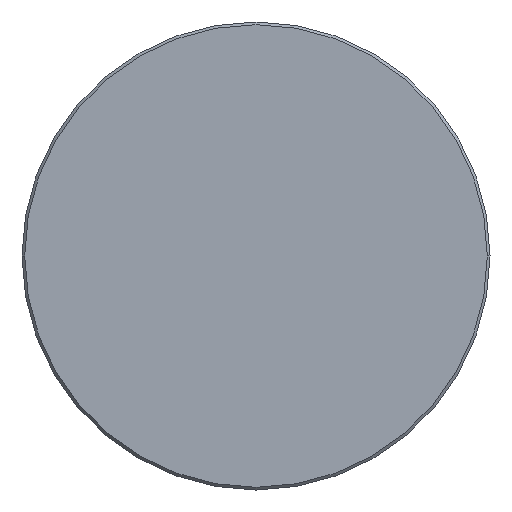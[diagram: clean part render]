
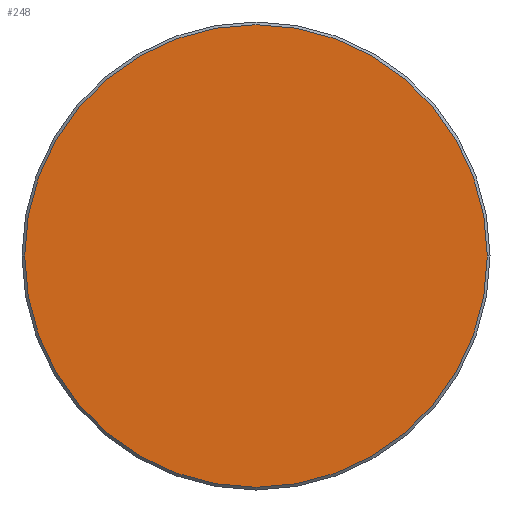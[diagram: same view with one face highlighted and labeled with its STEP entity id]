
A CAD part, left-side view. The second image highlights one B-rep face of the part: STEP entity #248.
In plain terms, the highlighted planar face has unit normal (-1, 0, 0).
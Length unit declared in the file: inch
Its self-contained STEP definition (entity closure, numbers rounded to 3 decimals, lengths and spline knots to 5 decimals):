
#6 = EDGE_CURVE ( 'NONE', #150, #355, #86, .T. ) ;
#13 = EDGE_CURVE ( 'NONE', #355, #150, #46, .T. ) ;
#46 = CIRCLE ( 'NONE', #261, 0.33975 ) ;
#84 = FACE_OUTER_BOUND ( 'NONE', #320, .T. ) ;
#86 = CIRCLE ( 'NONE', #242, 0.33975 ) ;
#119 = ORIENTED_EDGE ( 'NONE', *, *, #6, .T. ) ;
#150 = VERTEX_POINT ( 'NONE', #311 ) ;
#205 = DIRECTION ( 'NONE',  ( 0., -1., 0. ) ) ;
#209 = DIRECTION ( 'NONE',  ( 0., -1., 0. ) ) ;
#222 = CARTESIAN_POINT ( 'NONE',  ( 0., 0., 0. ) ) ;
#233 = ORIENTED_EDGE ( 'NONE', *, *, #13, .T. ) ;
#242 = AXIS2_PLACEMENT_3D ( 'NONE', #334, #297, #209 ) ;
#248 = ADVANCED_FACE ( 'NONE', ( #84 ), #318, .T. ) ;
#250 = DIRECTION ( 'NONE',  ( 0., -1., 0. ) ) ;
#261 = AXIS2_PLACEMENT_3D ( 'NONE', #357, #358, #205 ) ;
#297 = DIRECTION ( 'NONE',  ( -1., 0., 0. ) ) ;
#311 = CARTESIAN_POINT ( 'NONE',  ( 0., -0.33975, 0. ) ) ;
#318 = PLANE ( 'NONE',  #379 ) ;
#320 = EDGE_LOOP ( 'NONE', ( #233, #119 ) ) ;
#334 = CARTESIAN_POINT ( 'NONE',  ( 0., 0., 0. ) ) ;
#340 = DIRECTION ( 'NONE',  ( -1., 0., 0. ) ) ;
#349 = CARTESIAN_POINT ( 'NONE',  ( 0., 0.33975, 0. ) ) ;
#355 = VERTEX_POINT ( 'NONE', #349 ) ;
#357 = CARTESIAN_POINT ( 'NONE',  ( 0., 0., 0. ) ) ;
#358 = DIRECTION ( 'NONE',  ( -1., 0., 0. ) ) ;
#379 = AXIS2_PLACEMENT_3D ( 'NONE', #222, #340, #250 ) ;
